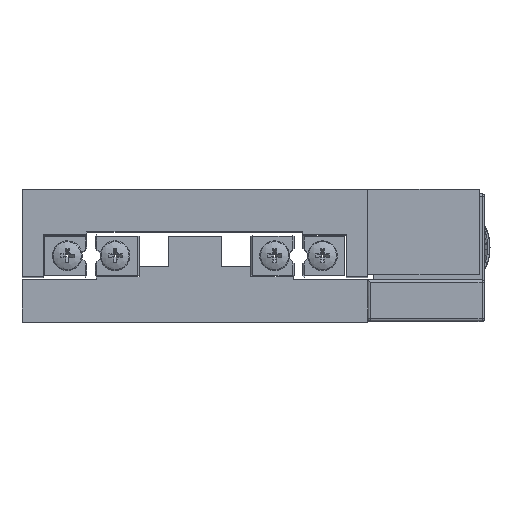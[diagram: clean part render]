
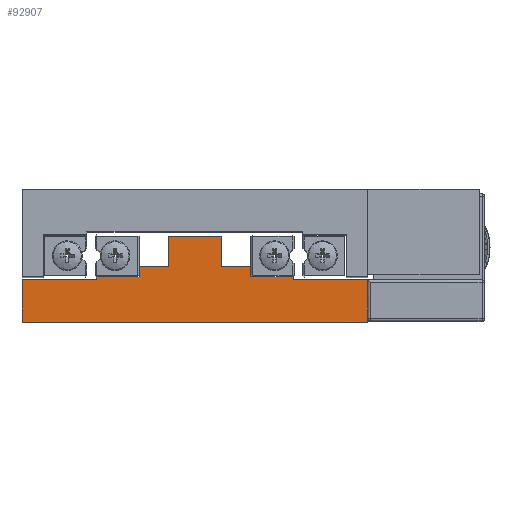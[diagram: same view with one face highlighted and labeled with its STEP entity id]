
A CAD part, top view. The second image highlights one B-rep face of the part: STEP entity #92907.
In plain terms, the highlighted planar face has unit normal (0, 0, 1).
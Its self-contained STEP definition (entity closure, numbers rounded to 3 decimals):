
#2402 = CARTESIAN_POINT ( 'NONE',  ( -67.996, -3.388, -14.681 ) ) ;
#2403 = PLANE ( 'NONE',  #122516 ) ;
#2409 = DIRECTION ( 'NONE',  ( 0., 0., 1. ) ) ;
#2411 = DIRECTION ( 'NONE',  ( 1., 0., 0. ) ) ;
#6492 = CARTESIAN_POINT ( 'NONE',  ( -62.996, -0.988, -14.681 ) ) ;
#6496 = CARTESIAN_POINT ( 'NONE',  ( -57.496, -0.988, -14.681 ) ) ;
#6498 = CARTESIAN_POINT ( 'NONE',  ( -49.496, -2.988, -14.681 ) ) ;
#6500 = CARTESIAN_POINT ( 'NONE',  ( -62.996, 4.712, -14.681 ) ) ;
#6510 = CARTESIAN_POINT ( 'NONE',  ( -35.496, -11.488, -14.681 ) ) ;
#6512 = CARTESIAN_POINT ( 'NONE',  ( -57.496, -2.988, -14.681 ) ) ;
#6516 = CARTESIAN_POINT ( 'NONE',  ( -78.496, -2.988, -14.681 ) ) ;
#6518 = CARTESIAN_POINT ( 'NONE',  ( -35.496, -3.488, -14.681 ) ) ;
#6520 = CARTESIAN_POINT ( 'NONE',  ( -49.496, -3.488, -14.681 ) ) ;
#6522 = CARTESIAN_POINT ( 'NONE',  ( -72.996, -0.988, -14.681 ) ) ;
#6524 = CARTESIAN_POINT ( 'NONE',  ( -78.496, -0.988, -14.681 ) ) ;
#6526 = CARTESIAN_POINT ( 'NONE',  ( -72.996, 4.712, -14.681 ) ) ;
#6528 = CARTESIAN_POINT ( 'NONE',  ( -86.496, -2.988, -14.681 ) ) ;
#6530 = CARTESIAN_POINT ( 'NONE',  ( -86.496, -3.488, -14.681 ) ) ;
#6532 = CARTESIAN_POINT ( 'NONE',  ( -100.496, -3.488, -14.681 ) ) ;
#6534 = CARTESIAN_POINT ( 'NONE',  ( -100.496, -11.488, -14.681 ) ) ;
#19309 = ORIENTED_EDGE ( 'NONE', *, *, #137778, .T. ) ;
#19313 = ORIENTED_EDGE ( 'NONE', *, *, #137728, .F. ) ;
#19317 = ORIENTED_EDGE ( 'NONE', *, *, #137743, .F. ) ;
#19322 = ORIENTED_EDGE ( 'NONE', *, *, #137786, .F. ) ;
#19326 = ORIENTED_EDGE ( 'NONE', *, *, #137721, .F. ) ;
#19330 = ORIENTED_EDGE ( 'NONE', *, *, #137735, .F. ) ;
#19335 = ORIENTED_EDGE ( 'NONE', *, *, #137739, .F. ) ;
#19340 = ORIENTED_EDGE ( 'NONE', *, *, #137791, .F. ) ;
#19345 = ORIENTED_EDGE ( 'NONE', *, *, #137754, .F. ) ;
#19349 = ORIENTED_EDGE ( 'NONE', *, *, #137704, .T. ) ;
#19353 = ORIENTED_EDGE ( 'NONE', *, *, #137776, .T. ) ;
#19358 = ORIENTED_EDGE ( 'NONE', *, *, #137716, .T. ) ;
#19362 = ORIENTED_EDGE ( 'NONE', *, *, #137714, .T. ) ;
#19367 = ORIENTED_EDGE ( 'NONE', *, *, #137720, .T. ) ;
#19372 = ORIENTED_EDGE ( 'NONE', *, *, #137723, .T. ) ;
#19376 = ORIENTED_EDGE ( 'NONE', *, *, #137782, .T. ) ;
#68398 = VERTEX_POINT ( 'NONE', #6492 ) ;
#68416 = VERTEX_POINT ( 'NONE', #6496 ) ;
#68424 = VERTEX_POINT ( 'NONE', #6498 ) ;
#68434 = VERTEX_POINT ( 'NONE', #6500 ) ;
#68478 = VERTEX_POINT ( 'NONE', #6510 ) ;
#68485 = VERTEX_POINT ( 'NONE', #6512 ) ;
#68500 = VERTEX_POINT ( 'NONE', #6516 ) ;
#68507 = VERTEX_POINT ( 'NONE', #6518 ) ;
#68515 = VERTEX_POINT ( 'NONE', #6520 ) ;
#68524 = VERTEX_POINT ( 'NONE', #6522 ) ;
#68534 = VERTEX_POINT ( 'NONE', #6524 ) ;
#68541 = VERTEX_POINT ( 'NONE', #6526 ) ;
#68550 = VERTEX_POINT ( 'NONE', #6528 ) ;
#68560 = VERTEX_POINT ( 'NONE', #6530 ) ;
#68566 = VERTEX_POINT ( 'NONE', #6532 ) ;
#68570 = VERTEX_POINT ( 'NONE', #6534 ) ;
#71511 = EDGE_LOOP ( 'NONE', ( #19376, #19372, #19367, #19362, #19358, #19353, #19349, #19345, #19340, #19335, #19330, #19326, #19322, #19317, #19313, #19309 ) ) ;
#84833 = FACE_OUTER_BOUND ( 'NONE', #71511, .T. ) ;
#92907 = ADVANCED_FACE ( 'NONE', ( #84833 ), #2403, .T. ) ;
#105494 = LINE ( 'NONE', #107249, #105505 ) ;
#105505 = VECTOR ( 'NONE', #107260, 1000. ) ;
#105531 = LINE ( 'NONE', #107275, #105535 ) ;
#105532 = LINE ( 'NONE', #107289, #105541 ) ;
#105535 = VECTOR ( 'NONE', #107288, 1000. ) ;
#105537 = LINE ( 'NONE', #107284, #105552 ) ;
#105541 = VECTOR ( 'NONE', #107294, 1000. ) ;
#105550 = LINE ( 'NONE', #107311, #105556 ) ;
#105552 = VECTOR ( 'NONE', #107310, 1000. ) ;
#105554 = LINE ( 'NONE', #107309, #105561 ) ;
#105556 = VECTOR ( 'NONE', #107312, 1000. ) ;
#105561 = VECTOR ( 'NONE', #107315, 1000. ) ;
#105562 = LINE ( 'NONE', #107317, #105569 ) ;
#105564 = VECTOR ( 'NONE', #107360, 1000. ) ;
#105569 = VECTOR ( 'NONE', #107316, 1000. ) ;
#105572 = LINE ( 'NONE', #107355, #105579 ) ;
#105573 = LINE ( 'NONE', #107322, #105564 ) ;
#105578 = VECTOR ( 'NONE', #107370, 1000. ) ;
#105579 = VECTOR ( 'NONE', #107362, 1000. ) ;
#105582 = LINE ( 'NONE', #107375, #105602 ) ;
#105584 = LINE ( 'NONE', #107363, #105578 ) ;
#105602 = VECTOR ( 'NONE', #107377, 1000. ) ;
#105610 = VECTOR ( 'NONE', #107417, 1000. ) ;
#105624 = LINE ( 'NONE', #107408, #105610 ) ;
#105626 = LINE ( 'NONE', #107405, #105631 ) ;
#105630 = LINE ( 'NONE', #107387, #105636 ) ;
#105631 = VECTOR ( 'NONE', #107419, 1000. ) ;
#105635 = VECTOR ( 'NONE', #107441, 1000. ) ;
#105636 = VECTOR ( 'NONE', #107426, 1000. ) ;
#105639 = VECTOR ( 'NONE', #107453, 1000. ) ;
#105641 = LINE ( 'NONE', #107429, #105635 ) ;
#105642 = LINE ( 'NONE', #107445, #105639 ) ;
#107249 = CARTESIAN_POINT ( 'NONE',  ( -62.996, -3.388, -14.681 ) ) ;
#107260 = DIRECTION ( 'NONE',  ( 0., 1., 0. ) ) ;
#107275 = CARTESIAN_POINT ( 'NONE',  ( -67.996, -2.988, -14.681 ) ) ;
#107284 = CARTESIAN_POINT ( 'NONE',  ( -49.496, -3.388, -14.681 ) ) ;
#107288 = DIRECTION ( 'NONE',  ( -1., 0., 0. ) ) ;
#107289 = CARTESIAN_POINT ( 'NONE',  ( -57.496, -3.388, -14.681 ) ) ;
#107294 = DIRECTION ( 'NONE',  ( 0., 1., 0. ) ) ;
#107309 = CARTESIAN_POINT ( 'NONE',  ( -67.996, -3.488, -14.681 ) ) ;
#107310 = DIRECTION ( 'NONE',  ( 0., 1., 0. ) ) ;
#107311 = CARTESIAN_POINT ( 'NONE',  ( -67.996, -2.988, -14.681 ) ) ;
#107312 = DIRECTION ( 'NONE',  ( 1., 0., 0. ) ) ;
#107315 = DIRECTION ( 'NONE',  ( -1., 0., 0. ) ) ;
#107316 = DIRECTION ( 'NONE',  ( 0., 1., 0. ) ) ;
#107317 = CARTESIAN_POINT ( 'NONE',  ( -100.496, -3.388, -14.681 ) ) ;
#107322 = CARTESIAN_POINT ( 'NONE',  ( -78.496, -3.388, -14.681 ) ) ;
#107355 = CARTESIAN_POINT ( 'NONE',  ( -67.996, -0.988, -14.681 ) ) ;
#107360 = DIRECTION ( 'NONE',  ( 0., 1., 0. ) ) ;
#107362 = DIRECTION ( 'NONE',  ( 1., 0., 0. ) ) ;
#107363 = CARTESIAN_POINT ( 'NONE',  ( -67.996, -3.488, -14.681 ) ) ;
#107370 = DIRECTION ( 'NONE',  ( 1., 0., 0. ) ) ;
#107375 = CARTESIAN_POINT ( 'NONE',  ( -67.996, 4.712, -14.681 ) ) ;
#107377 = DIRECTION ( 'NONE',  ( 1., 0., 0. ) ) ;
#107387 = CARTESIAN_POINT ( 'NONE',  ( -35.496, -3.388, -14.681 ) ) ;
#107405 = CARTESIAN_POINT ( 'NONE',  ( -67.996, -11.488, -14.681 ) ) ;
#107408 = CARTESIAN_POINT ( 'NONE',  ( -67.996, -0.988, -14.681 ) ) ;
#107417 = DIRECTION ( 'NONE',  ( -1., 0., 0. ) ) ;
#107419 = DIRECTION ( 'NONE',  ( 1., 0., 0. ) ) ;
#107426 = DIRECTION ( 'NONE',  ( 0., 1., 0. ) ) ;
#107429 = CARTESIAN_POINT ( 'NONE',  ( -86.496, -3.388, -14.681 ) ) ;
#107441 = DIRECTION ( 'NONE',  ( 0., 1., 0. ) ) ;
#107445 = CARTESIAN_POINT ( 'NONE',  ( -72.996, -3.388, -14.681 ) ) ;
#107453 = DIRECTION ( 'NONE',  ( 0., 1., 0. ) ) ;
#122516 = AXIS2_PLACEMENT_3D ( 'NONE', #2402, #2409, #2411 ) ;
#137704 = EDGE_CURVE ( 'NONE', #68398, #68434, #105494, .T. ) ;
#137714 = EDGE_CURVE ( 'NONE', #68424, #68485, #105531, .T. ) ;
#137716 = EDGE_CURVE ( 'NONE', #68485, #68416, #105532, .T. ) ;
#137720 = EDGE_CURVE ( 'NONE', #68515, #68424, #105537, .T. ) ;
#137721 = EDGE_CURVE ( 'NONE', #68550, #68500, #105550, .T. ) ;
#137723 = EDGE_CURVE ( 'NONE', #68507, #68515, #105554, .T. ) ;
#137728 = EDGE_CURVE ( 'NONE', #68570, #68566, #105562, .T. ) ;
#137735 = EDGE_CURVE ( 'NONE', #68500, #68534, #105573, .T. ) ;
#137739 = EDGE_CURVE ( 'NONE', #68534, #68524, #105572, .T. ) ;
#137743 = EDGE_CURVE ( 'NONE', #68566, #68560, #105584, .T. ) ;
#137754 = EDGE_CURVE ( 'NONE', #68541, #68434, #105582, .T. ) ;
#137776 = EDGE_CURVE ( 'NONE', #68416, #68398, #105624, .T. ) ;
#137778 = EDGE_CURVE ( 'NONE', #68570, #68478, #105626, .T. ) ;
#137782 = EDGE_CURVE ( 'NONE', #68478, #68507, #105630, .T. ) ;
#137786 = EDGE_CURVE ( 'NONE', #68560, #68550, #105641, .T. ) ;
#137791 = EDGE_CURVE ( 'NONE', #68524, #68541, #105642, .T. ) ;
